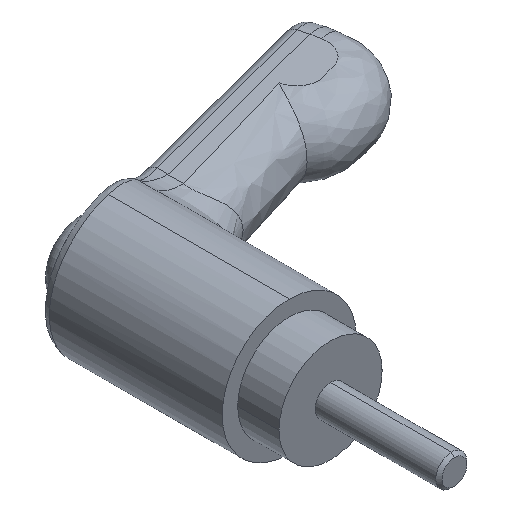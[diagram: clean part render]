
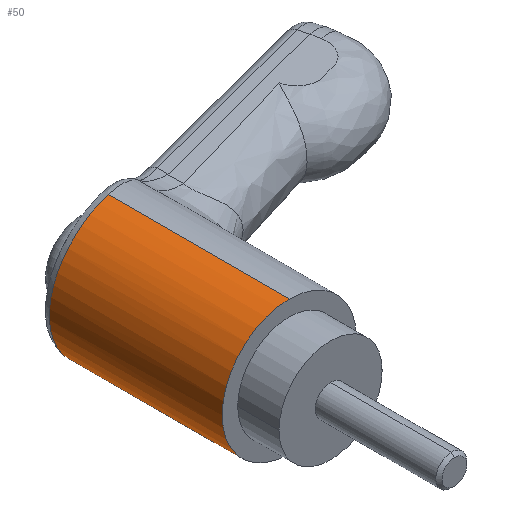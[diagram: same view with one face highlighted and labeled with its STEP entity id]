
A CAD part, isometric view. The second image highlights one B-rep face of the part: STEP entity #50.
In plain terms, the highlighted cylindrical face has radius 6.5 mm (diameter 13 mm), a partial arc.
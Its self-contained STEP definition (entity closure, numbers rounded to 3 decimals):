
#15 = CARTESIAN_POINT ( 'NONE',  ( -2.065, 17.158, -6.167 ) ) ;
#50 = ADVANCED_FACE ( 'NONE', ( #2060 ), #1241, .T. ) ;
#75 = CARTESIAN_POINT ( 'NONE',  ( -2.856, 17.039, -5.854 ) ) ;
#77 = AXIS2_PLACEMENT_3D ( 'NONE', #621, #640, #1723 ) ;
#98 = CARTESIAN_POINT ( 'NONE',  ( -3.94, 16.909, 5.188 ) ) ;
#146 = CARTESIAN_POINT ( 'NONE',  ( -4.269, 16.879, -4.906 ) ) ;
#353 = CARTESIAN_POINT ( 'NONE',  ( -5.152, 16.808, 3.986 ) ) ;
#376 = CARTESIAN_POINT ( 'NONE',  ( -6.5, 16.747, -0.425 ) ) ;
#391 = CARTESIAN_POINT ( 'NONE',  ( -6.457, 16.748, 0.863 ) ) ;
#415 = VERTEX_POINT ( 'NONE', #804 ) ;
#427 = CARTESIAN_POINT ( 'NONE',  ( 0., -2.841, 6.5 ) ) ;
#487 = CARTESIAN_POINT ( 'NONE',  ( 0., 17.56, -6.5 ) ) ;
#520 = VERTEX_POINT ( 'NONE', #1323 ) ;
#615 = CARTESIAN_POINT ( 'NONE',  ( 0., 17.56, 6.5 ) ) ;
#621 = CARTESIAN_POINT ( 'NONE',  ( 0., 0., 0. ) ) ;
#635 = CARTESIAN_POINT ( 'NONE',  ( -2.843, 17.042, 5.849 ) ) ;
#640 = DIRECTION ( 'NONE',  ( 0., -1., 0. ) ) ;
#658 = CARTESIAN_POINT ( 'NONE',  ( 0., 17.56, 6.5 ) ) ;
#669 = CARTESIAN_POINT ( 'NONE',  ( -5.837, 16.77, -2.893 ) ) ;
#700 = EDGE_CURVE ( 'NONE', #2308, #773, #2833, .T. ) ;
#773 = VERTEX_POINT ( 'NONE', #3089 ) ;
#794 = CARTESIAN_POINT ( 'NONE',  ( -0.421, 17.464, -6.5 ) ) ;
#804 = CARTESIAN_POINT ( 'NONE',  ( 0., 17.56, -6.5 ) ) ;
#885 = CARTESIAN_POINT ( 'NONE',  ( -2.267, 17.126, -6.095 ) ) ;
#905 = CARTESIAN_POINT ( 'NONE',  ( -6.331, 16.752, 1.489 ) ) ;
#932 = EDGE_CURVE ( 'NONE', #773, #520, #1464, .T. ) ;
#944 = CARTESIAN_POINT ( 'NONE',  ( -5.629, 16.78, 3.278 ) ) ;
#1088 = DIRECTION ( 'NONE',  ( 0., -1., 0. ) ) ;
#1183 = CARTESIAN_POINT ( 'NONE',  ( -6.5, 16.747, 0.435 ) ) ;
#1227 = DIRECTION ( 'NONE',  ( 0., -1., 0. ) ) ;
#1241 = CYLINDRICAL_SURFACE ( 'NONE', #1575, 6.5 ) ;
#1248 = VECTOR ( 'NONE', #1227, 1000. ) ;
#1323 = CARTESIAN_POINT ( 'NONE',  ( 0., 0., -6.5 ) ) ;
#1339 = ORIENTED_EDGE ( 'NONE', *, *, #932, .F. ) ;
#1386 = CARTESIAN_POINT ( 'NONE',  ( 0., -2.841, -6.5 ) ) ;
#1398 = CARTESIAN_POINT ( 'NONE',  ( -6.292, 16.753, -1.686 ) ) ;
#1417 = CARTESIAN_POINT ( 'NONE',  ( -6.279, 16.754, 1.696 ) ) ;
#1464 = CIRCLE ( 'NONE', #77, 6.5 ) ;
#1465 = CARTESIAN_POINT ( 'NONE',  ( -4.428, 16.864, -4.764 ) ) ;
#1575 = AXIS2_PLACEMENT_3D ( 'NONE', #2075, #1819, #3130 ) ;
#1678 = CARTESIAN_POINT ( 'NONE',  ( -2.067, 17.156, 6.177 ) ) ;
#1697 = CARTESIAN_POINT ( 'NONE',  ( -5.831, 16.771, 2.903 ) ) ;
#1719 = CARTESIAN_POINT ( 'NONE',  ( -3.405, 16.97, 5.541 ) ) ;
#1723 = DIRECTION ( 'NONE',  ( 0., 0., -1. ) ) ;
#1732 = CARTESIAN_POINT ( 'NONE',  ( -5.152, 16.808, -3.986 ) ) ;
#1819 = DIRECTION ( 'NONE',  ( 0., -1., 0. ) ) ;
#1833 = CARTESIAN_POINT ( 'NONE',  ( -1.659, 17.226, -6.288 ) ) ;
#1983 = EDGE_CURVE ( 'NONE', #415, #520, #2402, .T. ) ;
#2001 = CARTESIAN_POINT ( 'NONE',  ( -3.23, 16.99, -5.657 ) ) ;
#2060 = FACE_OUTER_BOUND ( 'NONE', #3073, .T. ) ;
#2075 = CARTESIAN_POINT ( 'NONE',  ( 0., -2.841, 0. ) ) ;
#2207 = CARTESIAN_POINT ( 'NONE',  ( -3.219, 16.993, 5.651 ) ) ;
#2225 = CARTESIAN_POINT ( 'NONE',  ( -2.652, 17.069, 5.938 ) ) ;
#2258 = CARTESIAN_POINT ( 'NONE',  ( -4.269, 16.878, 4.92 ) ) ;
#2276 = CARTESIAN_POINT ( 'NONE',  ( -3.936, 16.911, -5.177 ) ) ;
#2308 = VERTEX_POINT ( 'NONE', #615 ) ;
#2331 = B_SPLINE_CURVE_WITH_KNOTS ( 'NONE', 3,
 ( #658, #2493, #2511, #3037, #1678, #2225, #635, #2207, #1719, #98, #2258, #2796, #353, #944, #1697, #2527, #3302, #1417, #905, #391, #1183, #376, #3334, #1398, #3070, #669, #3284, #1732, #2812, #1465, #146, #2276, #3348, #2001, #75, #885, #15, #1833, #2376, #2392, #794, #487 ),
 .UNSPECIFIED., .F., .F.,
 ( 4, 2, 2, 2, 2, 2, 2, 2, 2, 2, 2, 2, 2, 2, 2, 2, 2, 2, 2, 2, 4 ),
 ( 0.005, 0.006, 0.007, 0.008, 0.008, 0.01, 0.011, 0.012, 0.013, 0.014, 0.015, 0.016, 0.017, 0.019, 0.02, 0.021, 0.021, 0.023, 0.023, 0.024, 0.025 ),
 .UNSPECIFIED. ) ;
#2376 = CARTESIAN_POINT ( 'NONE',  ( -1.454, 17.263, -6.339 ) ) ;
#2392 = CARTESIAN_POINT ( 'NONE',  ( -0.837, 17.378, -6.459 ) ) ;
#2402 = LINE ( 'NONE', #1386, #3215 ) ;
#2493 = CARTESIAN_POINT ( 'NONE',  ( -0.414, 17.466, 6.5 ) ) ;
#2511 = CARTESIAN_POINT ( 'NONE',  ( -0.83, 17.38, 6.461 ) ) ;
#2524 = EDGE_CURVE ( 'NONE', #2308, #415, #2331, .T. ) ;
#2527 = CARTESIAN_POINT ( 'NONE',  ( -6.08, 16.761, 2.309 ) ) ;
#2767 = ORIENTED_EDGE ( 'NONE', *, *, #1983, .T. ) ;
#2796 = CARTESIAN_POINT ( 'NONE',  ( -4.875, 16.827, 4.321 ) ) ;
#2812 = CARTESIAN_POINT ( 'NONE',  ( -4.88, 16.827, -4.314 ) ) ;
#2833 = LINE ( 'NONE', #427, #1248 ) ;
#2939 = ORIENTED_EDGE ( 'NONE', *, *, #2524, .T. ) ;
#3037 = CARTESIAN_POINT ( 'NONE',  ( -1.662, 17.224, 6.298 ) ) ;
#3070 = CARTESIAN_POINT ( 'NONE',  ( -6.166, 16.757, -2.101 ) ) ;
#3073 = EDGE_LOOP ( 'NONE', ( #3301, #2939, #2767, #1339 ) ) ;
#3089 = CARTESIAN_POINT ( 'NONE',  ( 0., 0., 6.5 ) ) ;
#3130 = DIRECTION ( 'NONE',  ( 0., 0., -1. ) ) ;
#3215 = VECTOR ( 'NONE', #1088, 1000. ) ;
#3284 = CARTESIAN_POINT ( 'NONE',  ( -5.633, 16.78, -3.271 ) ) ;
#3301 = ORIENTED_EDGE ( 'NONE', *, *, #700, .F. ) ;
#3302 = CARTESIAN_POINT ( 'NONE',  ( -6.153, 16.758, 2.105 ) ) ;
#3334 = CARTESIAN_POINT ( 'NONE',  ( -6.458, 16.748, -0.85 ) ) ;
#3348 = CARTESIAN_POINT ( 'NONE',  ( -3.763, 16.93, -5.305 ) ) ;
